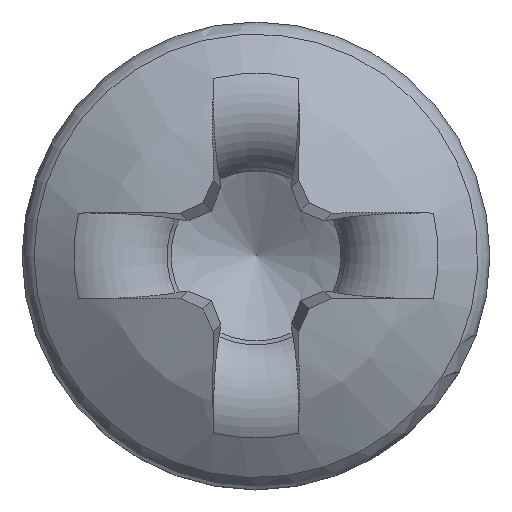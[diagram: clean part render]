
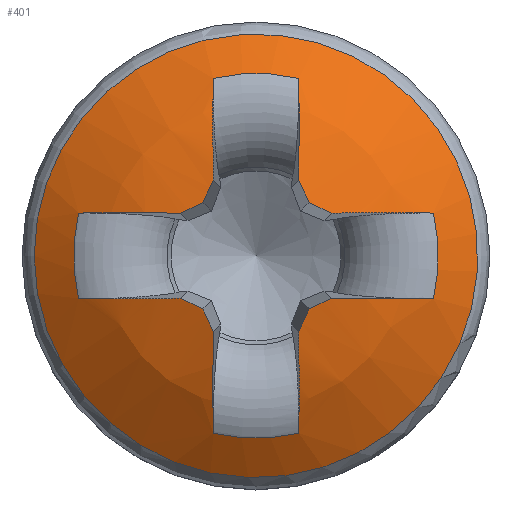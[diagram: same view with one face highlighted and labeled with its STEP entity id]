
A CAD part, top view. The second image highlights one B-rep face of the part: STEP entity #401.
In plain terms, the highlighted spherical face has radius 2.713 mm.
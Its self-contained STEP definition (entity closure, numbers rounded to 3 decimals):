
#285=SPHERICAL_SURFACE('',#1867,2.713);
#401=ADVANCED_FACE('',(#672,#673),#285,.T.);
#672=FACE_BOUND('',#692,.T.);
#673=FACE_BOUND('',#693,.T.);
#692=EDGE_LOOP('',(#855));
#693=EDGE_LOOP('',(#856,#857,#858,#859,#860,#861,#862,#863,#864,#865,#866,
#867,#868,#869,#870,#871,#872,#873,#874,#875));
#855=ORIENTED_EDGE('',*,*,#1573,.T.);
#856=ORIENTED_EDGE('',*,*,#1574,.F.);
#857=ORIENTED_EDGE('',*,*,#1575,.T.);
#858=ORIENTED_EDGE('',*,*,#1576,.F.);
#859=ORIENTED_EDGE('',*,*,#1577,.F.);
#860=ORIENTED_EDGE('',*,*,#1578,.F.);
#861=ORIENTED_EDGE('',*,*,#1579,.F.);
#862=ORIENTED_EDGE('',*,*,#1580,.T.);
#863=ORIENTED_EDGE('',*,*,#1581,.F.);
#864=ORIENTED_EDGE('',*,*,#1582,.F.);
#865=ORIENTED_EDGE('',*,*,#1583,.F.);
#866=ORIENTED_EDGE('',*,*,#1584,.F.);
#867=ORIENTED_EDGE('',*,*,#1585,.T.);
#868=ORIENTED_EDGE('',*,*,#1586,.F.);
#869=ORIENTED_EDGE('',*,*,#1587,.F.);
#870=ORIENTED_EDGE('',*,*,#1588,.F.);
#871=ORIENTED_EDGE('',*,*,#1589,.F.);
#872=ORIENTED_EDGE('',*,*,#1590,.T.);
#873=ORIENTED_EDGE('',*,*,#1591,.F.);
#874=ORIENTED_EDGE('',*,*,#1592,.F.);
#875=ORIENTED_EDGE('',*,*,#1593,.F.);
#1397=VERTEX_POINT('',#4154);
#1398=VERTEX_POINT('',#4156);
#1399=VERTEX_POINT('',#4157);
#1400=VERTEX_POINT('',#4159);
#1401=VERTEX_POINT('',#4161);
#1402=VERTEX_POINT('',#4163);
#1403=VERTEX_POINT('',#4165);
#1404=VERTEX_POINT('',#4167);
#1405=VERTEX_POINT('',#4169);
#1406=VERTEX_POINT('',#4171);
#1407=VERTEX_POINT('',#4173);
#1408=VERTEX_POINT('',#4175);
#1409=VERTEX_POINT('',#4177);
#1410=VERTEX_POINT('',#4179);
#1411=VERTEX_POINT('',#4181);
#1412=VERTEX_POINT('',#4183);
#1413=VERTEX_POINT('',#4185);
#1414=VERTEX_POINT('',#4187);
#1415=VERTEX_POINT('',#4189);
#1416=VERTEX_POINT('',#4191);
#1417=VERTEX_POINT('',#4193);
#1573=EDGE_CURVE('',#1397,#1397,#1803,.T.);
#1574=EDGE_CURVE('',#1398,#1399,#1804,.T.);
#1575=EDGE_CURVE('',#1398,#1400,#1805,.T.);
#1576=EDGE_CURVE('',#1401,#1400,#1806,.T.);
#1577=EDGE_CURVE('',#1402,#1401,#1807,.T.);
#1578=EDGE_CURVE('',#1403,#1402,#1808,.T.);
#1579=EDGE_CURVE('',#1404,#1403,#1809,.T.);
#1580=EDGE_CURVE('',#1404,#1405,#1810,.T.);
#1581=EDGE_CURVE('',#1406,#1405,#1811,.T.);
#1582=EDGE_CURVE('',#1407,#1406,#1812,.T.);
#1583=EDGE_CURVE('',#1408,#1407,#1813,.T.);
#1584=EDGE_CURVE('',#1409,#1408,#1814,.T.);
#1585=EDGE_CURVE('',#1409,#1410,#1815,.T.);
#1586=EDGE_CURVE('',#1411,#1410,#1816,.T.);
#1587=EDGE_CURVE('',#1412,#1411,#1817,.T.);
#1588=EDGE_CURVE('',#1413,#1412,#1818,.T.);
#1589=EDGE_CURVE('',#1414,#1413,#1819,.T.);
#1590=EDGE_CURVE('',#1414,#1415,#1820,.T.);
#1591=EDGE_CURVE('',#1416,#1415,#1821,.T.);
#1592=EDGE_CURVE('',#1417,#1416,#1822,.T.);
#1593=EDGE_CURVE('',#1399,#1417,#1823,.T.);
#1803=CIRCLE('',#1846,1.659);
#1804=CIRCLE('',#1847,2.712);
#1805=CIRCLE('',#1848,1.365);
#1806=CIRCLE('',#1849,2.712);
#1807=CIRCLE('',#1850,2.705);
#1808=CIRCLE('',#1851,2.705);
#1809=CIRCLE('',#1852,2.712);
#1810=CIRCLE('',#1853,1.365);
#1811=CIRCLE('',#1854,2.712);
#1812=CIRCLE('',#1855,2.705);
#1813=CIRCLE('',#1856,2.705);
#1814=CIRCLE('',#1857,2.712);
#1815=CIRCLE('',#1858,1.365);
#1816=CIRCLE('',#1859,2.712);
#1817=CIRCLE('',#1860,2.705);
#1818=CIRCLE('',#1861,2.705);
#1819=CIRCLE('',#1862,2.712);
#1820=CIRCLE('',#1863,1.365);
#1821=CIRCLE('',#1864,2.712);
#1822=CIRCLE('',#1865,2.705);
#1823=CIRCLE('',#1866,2.705);
#1846=AXIS2_PLACEMENT_3D('',#4153,#1932,#1933);
#1847=AXIS2_PLACEMENT_3D('',#4155,#1934,#1935);
#1848=AXIS2_PLACEMENT_3D('',#4158,#1936,#1937);
#1849=AXIS2_PLACEMENT_3D('',#4160,#1938,#1939);
#1850=AXIS2_PLACEMENT_3D('',#4162,#1940,#1941);
#1851=AXIS2_PLACEMENT_3D('',#4164,#1942,#1943);
#1852=AXIS2_PLACEMENT_3D('',#4166,#1944,#1945);
#1853=AXIS2_PLACEMENT_3D('',#4168,#1946,#1947);
#1854=AXIS2_PLACEMENT_3D('',#4170,#1948,#1949);
#1855=AXIS2_PLACEMENT_3D('',#4172,#1950,#1951);
#1856=AXIS2_PLACEMENT_3D('',#4174,#1952,#1953);
#1857=AXIS2_PLACEMENT_3D('',#4176,#1954,#1955);
#1858=AXIS2_PLACEMENT_3D('',#4178,#1956,#1957);
#1859=AXIS2_PLACEMENT_3D('',#4180,#1958,#1959);
#1860=AXIS2_PLACEMENT_3D('',#4182,#1960,#1961);
#1861=AXIS2_PLACEMENT_3D('',#4184,#1962,#1963);
#1862=AXIS2_PLACEMENT_3D('',#4186,#1964,#1965);
#1863=AXIS2_PLACEMENT_3D('',#4188,#1966,#1967);
#1864=AXIS2_PLACEMENT_3D('',#4190,#1968,#1969);
#1865=AXIS2_PLACEMENT_3D('',#4192,#1970,#1971);
#1866=AXIS2_PLACEMENT_3D('',#4194,#1972,#1973);
#1867=AXIS2_PLACEMENT_3D('',#4195,#1974,#1975);
#1932=DIRECTION('',(0.,0.,1.));
#1933=DIRECTION('',(-1.,0.,0.));
#1934=DIRECTION('',(-0.996,-0.035,0.087));
#1935=DIRECTION('',(0.087,0.,0.996));
#1936=DIRECTION('',(0.,0.,-1.));
#1937=DIRECTION('',(-1.,0.,0.));
#1938=DIRECTION('',(0.996,-0.035,0.087));
#1939=DIRECTION('',(0.087,0.,-0.996));
#1940=DIRECTION('',(0.907,0.404,0.122));
#1941=DIRECTION('',(-0.407,0.914,0.));
#1942=DIRECTION('',(0.404,0.907,0.122));
#1943=DIRECTION('',(-0.914,0.407,0.));
#1944=DIRECTION('',(-0.035,0.996,0.087));
#1945=DIRECTION('',(0.,-0.087,0.996));
#1946=DIRECTION('',(0.,0.,-1.));
#1947=DIRECTION('',(-1.,0.,0.));
#1948=DIRECTION('',(-0.035,-0.996,0.087));
#1949=DIRECTION('',(0.,-0.087,-0.996));
#1950=DIRECTION('',(0.404,-0.907,0.122));
#1951=DIRECTION('',(0.914,0.407,0.));
#1952=DIRECTION('',(0.907,-0.404,0.122));
#1953=DIRECTION('',(0.407,0.914,0.));
#1954=DIRECTION('',(0.996,0.035,0.087));
#1955=DIRECTION('',(0.087,0.,-0.996));
#1956=DIRECTION('',(0.,0.,-1.));
#1957=DIRECTION('',(-1.,0.,0.));
#1958=DIRECTION('',(-0.996,0.035,0.087));
#1959=DIRECTION('',(0.087,0.,0.996));
#1960=DIRECTION('',(-0.907,-0.404,0.122));
#1961=DIRECTION('',(0.407,-0.914,0.));
#1962=DIRECTION('',(-0.404,-0.907,0.122));
#1963=DIRECTION('',(0.914,-0.407,0.));
#1964=DIRECTION('',(0.035,-0.996,0.087));
#1965=DIRECTION('',(0.,-0.087,-0.996));
#1966=DIRECTION('',(0.,0.,-1.));
#1967=DIRECTION('',(-1.,0.,0.));
#1968=DIRECTION('',(0.035,0.996,0.087));
#1969=DIRECTION('',(0.,-0.087,0.996));
#1970=DIRECTION('',(-0.404,0.907,0.122));
#1971=DIRECTION('',(-0.914,-0.407,0.));
#1972=DIRECTION('',(-0.907,0.404,0.122));
#1973=DIRECTION('',(-0.407,-0.914,0.));
#1974=DIRECTION('',(0.,0.,1.));
#1975=DIRECTION('',(0.,1.,0.));
#4153=CARTESIAN_POINT('',(0.,0.,1.033));
#4154=CARTESIAN_POINT('',(-1.659,0.,1.033));
#4155=CARTESIAN_POINT('',(0.068,0.002,-1.119));
#4156=CARTESIAN_POINT('',(0.32,-1.327,1.231));
#4157=CARTESIAN_POINT('',(0.319,-0.566,1.521));
#4158=CARTESIAN_POINT('',(0.,0.,1.231));
#4159=CARTESIAN_POINT('',(-0.32,-1.327,1.231));
#4160=CARTESIAN_POINT('',(-0.068,0.002,-1.119));
#4161=CARTESIAN_POINT('',(-0.319,-0.566,1.521));
#4162=CARTESIAN_POINT('',(-0.178,-0.079,-1.137));
#4163=CARTESIAN_POINT('',(-0.397,-0.397,1.541));
#4164=CARTESIAN_POINT('',(-0.079,-0.178,-1.137));
#4165=CARTESIAN_POINT('',(-0.566,-0.319,1.521));
#4166=CARTESIAN_POINT('',(0.002,-0.068,-1.119));
#4167=CARTESIAN_POINT('',(-1.327,-0.32,1.231));
#4168=CARTESIAN_POINT('',(0.,0.,1.231));
#4169=CARTESIAN_POINT('',(-1.327,0.32,1.231));
#4170=CARTESIAN_POINT('',(0.002,0.068,-1.119));
#4171=CARTESIAN_POINT('',(-0.566,0.319,1.521));
#4172=CARTESIAN_POINT('',(-0.079,0.178,-1.137));
#4173=CARTESIAN_POINT('',(-0.397,0.397,1.541));
#4174=CARTESIAN_POINT('',(-0.178,0.079,-1.137));
#4175=CARTESIAN_POINT('',(-0.319,0.566,1.521));
#4176=CARTESIAN_POINT('',(-0.068,-0.002,-1.119));
#4177=CARTESIAN_POINT('',(-0.32,1.327,1.231));
#4178=CARTESIAN_POINT('',(0.,0.,1.231));
#4179=CARTESIAN_POINT('',(0.32,1.327,1.231));
#4180=CARTESIAN_POINT('',(0.068,-0.002,-1.119));
#4181=CARTESIAN_POINT('',(0.319,0.566,1.521));
#4182=CARTESIAN_POINT('',(0.178,0.079,-1.137));
#4183=CARTESIAN_POINT('',(0.397,0.397,1.541));
#4184=CARTESIAN_POINT('',(0.079,0.178,-1.137));
#4185=CARTESIAN_POINT('',(0.566,0.319,1.521));
#4186=CARTESIAN_POINT('',(-0.002,0.068,-1.119));
#4187=CARTESIAN_POINT('',(1.327,0.32,1.231));
#4188=CARTESIAN_POINT('',(0.,0.,1.231));
#4189=CARTESIAN_POINT('',(1.327,-0.32,1.231));
#4190=CARTESIAN_POINT('',(-0.002,-0.068,-1.119));
#4191=CARTESIAN_POINT('',(0.566,-0.319,1.521));
#4192=CARTESIAN_POINT('',(0.079,-0.178,-1.137));
#4193=CARTESIAN_POINT('',(0.397,-0.397,1.541));
#4194=CARTESIAN_POINT('',(0.178,-0.079,-1.137));
#4195=CARTESIAN_POINT('',(0.,0.,-1.113));
